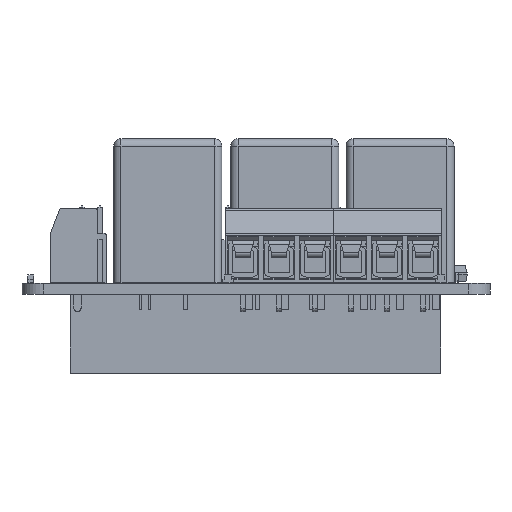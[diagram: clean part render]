
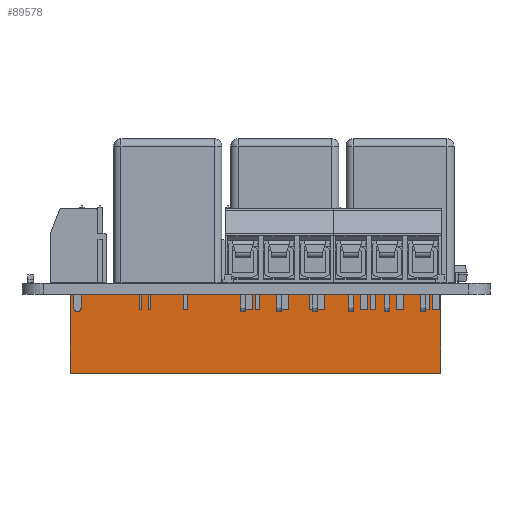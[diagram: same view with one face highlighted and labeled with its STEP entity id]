
A CAD part, front view. The second image highlights one B-rep face of the part: STEP entity #89578.
In plain terms, the highlighted planar face has unit normal (0, -1, 0).
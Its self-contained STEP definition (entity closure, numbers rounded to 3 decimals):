
#88091 = VERTEX_POINT('',#88092);
#88092 = CARTESIAN_POINT('',(6.7,50.02,0.095));
#88098 = EDGE_CURVE('',#88091,#88099,#88101,.T.);
#88099 = VERTEX_POINT('',#88100);
#88100 = CARTESIAN_POINT('',(6.7,50.02,-10.955));
#88101 = LINE('',#88102,#88103);
#88102 = CARTESIAN_POINT('',(6.7,50.02,0.095));
#88103 = VECTOR('',#88104,1.);
#88104 = DIRECTION('',(0.,0.,-1.));
#88175 = EDGE_CURVE('',#88099,#88176,#88178,.T.);
#88176 = VERTEX_POINT('',#88177);
#88177 = CARTESIAN_POINT('',(58.16,50.02,-10.955));
#88178 = LINE('',#88179,#88180);
#88179 = CARTESIAN_POINT('',(6.7,50.02,-10.955));
#88180 = VECTOR('',#88181,1.);
#88181 = DIRECTION('',(1.,0.,0.));
#89578 = ADVANCED_FACE('',(#89579),#89597,.T.);
#89579 = FACE_BOUND('',#89580,.T.);
#89580 = EDGE_LOOP('',(#89581,#89589,#89590,#89591));
#89581 = ORIENTED_EDGE('',*,*,#89582,.F.);
#89582 = EDGE_CURVE('',#88091,#89583,#89585,.T.);
#89583 = VERTEX_POINT('',#89584);
#89584 = CARTESIAN_POINT('',(58.16,50.02,0.095));
#89585 = LINE('',#89586,#89587);
#89586 = CARTESIAN_POINT('',(6.7,50.02,0.095));
#89587 = VECTOR('',#89588,1.);
#89588 = DIRECTION('',(1.,0.,0.));
#89589 = ORIENTED_EDGE('',*,*,#88098,.T.);
#89590 = ORIENTED_EDGE('',*,*,#88175,.T.);
#89591 = ORIENTED_EDGE('',*,*,#89592,.F.);
#89592 = EDGE_CURVE('',#89583,#88176,#89593,.T.);
#89593 = LINE('',#89594,#89595);
#89594 = CARTESIAN_POINT('',(58.16,50.02,0.095));
#89595 = VECTOR('',#89596,1.);
#89596 = DIRECTION('',(0.,0.,-1.));
#89597 = PLANE('',#89598);
#89598 = AXIS2_PLACEMENT_3D('',#89599,#89600,#89601);
#89599 = CARTESIAN_POINT('',(6.7,50.02,0.095));
#89600 = DIRECTION('',(0.,-1.,0.));
#89601 = DIRECTION('',(0.,0.,-1.));
